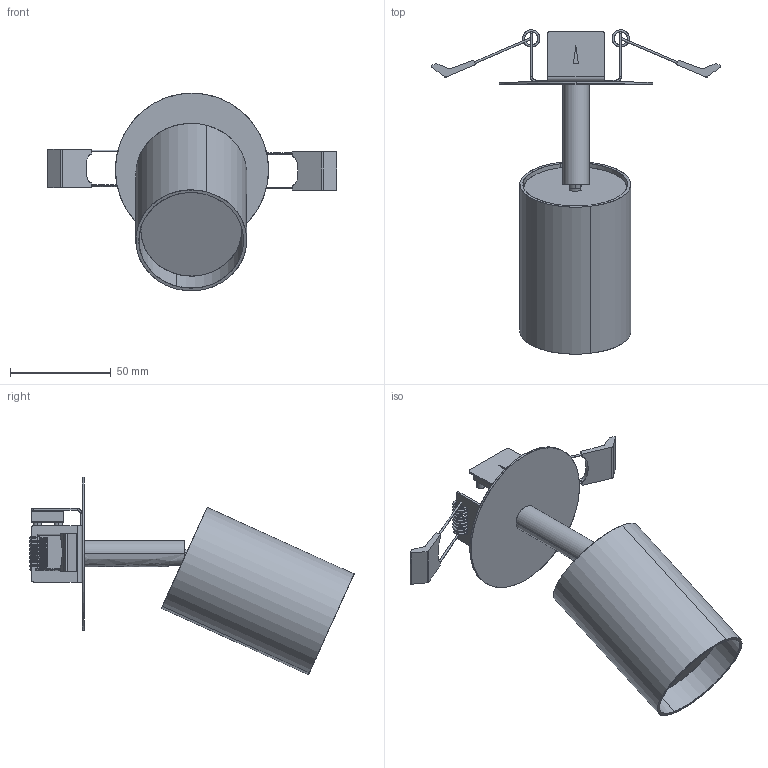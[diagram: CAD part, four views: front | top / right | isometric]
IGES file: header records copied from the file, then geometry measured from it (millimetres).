
Start section: SolidWorks IGES file using analytic representation for surfaces
Global section: file name: E:\3D lampy\Eye Fit\Eye Fit 1\Eye Fit_9396,9400.IGS; native system: SolidWorks 2017; preprocessor: SolidWorks 2017; author: Asia; date: 180302.125129; units: millimetre
Bounding box: 143.68 x 160.86 x 98.07 mm (x, y, z)
Surface area: 75549 mm2 (no closed solid volume)
Topology: 0 solids, 0 shells, 666 faces, 19212 edges, 22497 vertices
Faces by surface type: bspline 350, revolution 316
